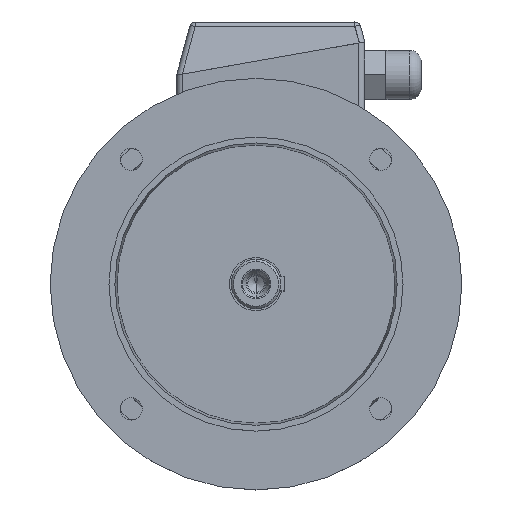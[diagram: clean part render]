
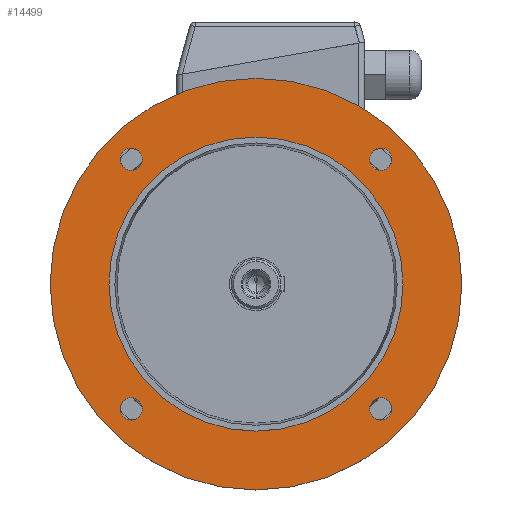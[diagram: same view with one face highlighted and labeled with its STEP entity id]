
A CAD part, top view. The second image highlights one B-rep face of the part: STEP entity #14499.
In plain terms, the highlighted planar face has unit normal (0, 0, 1).
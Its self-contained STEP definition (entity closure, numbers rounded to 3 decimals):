
#76 = CIRCLE ( 'NONE', #77, 125. ) ;
#77 = AXIS2_PLACEMENT_3D ( 'NONE', #78, #79, #80 ) ;
#78 = CARTESIAN_POINT ( 'NONE',  ( 0., 0., 75. ) ) ;
#79 = DIRECTION ( 'NONE',  ( 0., 0., 1. ) ) ;
#80 = DIRECTION ( 'NONE',  ( 1., 0., 0. ) ) ;
#146 = CARTESIAN_POINT ( 'NONE',  ( -96.566, -106.066, 75. ) ) ;
#566 = CIRCLE ( 'NONE', #567, 9.5 ) ;
#567 = AXIS2_PLACEMENT_3D ( 'NONE', #568, #569, #570 ) ;
#568 = CARTESIAN_POINT ( 'NONE',  ( -106.066, 106.066, 75. ) ) ;
#569 = DIRECTION ( 'NONE',  ( 0., 0., 1. ) ) ;
#570 = DIRECTION ( 'NONE',  ( 1., 0., 0. ) ) ;
#2856 = VERTEX_POINT ( 'NONE', #7090 ) ;
#2883 = CARTESIAN_POINT ( 'NONE',  ( -115.566, 106.066, 75. ) ) ;
#3005 = CARTESIAN_POINT ( 'NONE',  ( -115.566, -106.066, 75. ) ) ;
#3083 = CARTESIAN_POINT ( 'NONE',  ( 115.566, 106.066, 75. ) ) ;
#3189 = CIRCLE ( 'NONE', #3190, 9.5 ) ;
#3190 = AXIS2_PLACEMENT_3D ( 'NONE', #3191, #3192, #3193 ) ;
#3191 = CARTESIAN_POINT ( 'NONE',  ( 106.066, 106.066, 75. ) ) ;
#3192 = DIRECTION ( 'NONE',  ( 0., 0., 1. ) ) ;
#3193 = DIRECTION ( 'NONE',  ( 1., 0., 0. ) ) ;
#3219 = CIRCLE ( 'NONE', #3220, 9.5 ) ;
#3220 = AXIS2_PLACEMENT_3D ( 'NONE', #3221, #3222, #3223 ) ;
#3221 = CARTESIAN_POINT ( 'NONE',  ( -106.066, 106.066, 75. ) ) ;
#3222 = DIRECTION ( 'NONE',  ( 0., 0., 1. ) ) ;
#3223 = DIRECTION ( 'NONE',  ( 1., 0., 0. ) ) ;
#3340 = VERTEX_POINT ( 'NONE', #7311 ) ;
#3695 = CARTESIAN_POINT ( 'NONE',  ( 96.566, 106.066, 75. ) ) ;
#4199 = EDGE_CURVE ( 'NONE', #2856, #8234, #7816, .T. ) ;
#4495 = EDGE_CURVE ( 'NONE', #3340, #5334, #8721, .T. ) ;
#4925 = EDGE_CURVE ( 'NONE', #14498, #5102, #9749, .T. ) ;
#5102 = VERTEX_POINT ( 'NONE', #11057 ) ;
#5293 = EDGE_LOOP ( 'NONE', ( #7123, #10519 ) ) ;
#5334 = VERTEX_POINT ( 'NONE', #12195 ) ;
#5354 = ORIENTED_EDGE ( 'NONE', *, *, #11137, .F. ) ;
#5626 = ORIENTED_EDGE ( 'NONE', *, *, #14335, .T. ) ;
#5703 = ORIENTED_EDGE ( 'NONE', *, *, #4925, .T. ) ;
#6196 = EDGE_LOOP ( 'NONE', ( #5703, #5626 ) ) ;
#6723 = EDGE_CURVE ( 'NONE', #8234, #2856, #14326, .T. ) ;
#7090 = CARTESIAN_POINT ( 'NONE',  ( 96.566, -106.066, 75. ) ) ;
#7123 = ORIENTED_EDGE ( 'NONE', *, *, #6723, .F. ) ;
#7311 = CARTESIAN_POINT ( 'NONE',  ( 125., 0., 75. ) ) ;
#7816 = CIRCLE ( 'NONE', #7817, 9.5 ) ;
#7817 = AXIS2_PLACEMENT_3D ( 'NONE', #7818, #7819, #7820 ) ;
#7818 = CARTESIAN_POINT ( 'NONE',  ( 106.066, -106.066, 75. ) ) ;
#7819 = DIRECTION ( 'NONE',  ( 0., 0., 1. ) ) ;
#7820 = DIRECTION ( 'NONE',  ( 1., 0., 0. ) ) ;
#8234 = VERTEX_POINT ( 'NONE', #15065 ) ;
#8499 = EDGE_CURVE ( 'NONE', #5334, #3340, #76, .T. ) ;
#8640 = VERTEX_POINT ( 'NONE', #146 ) ;
#8721 = CIRCLE ( 'NONE', #8722, 125. ) ;
#8722 = AXIS2_PLACEMENT_3D ( 'NONE', #8730, #8731, #8732 ) ;
#8730 = CARTESIAN_POINT ( 'NONE',  ( 0., 0., 75. ) ) ;
#8731 = DIRECTION ( 'NONE',  ( 0., 0., 1. ) ) ;
#8732 = DIRECTION ( 'NONE',  ( 1., 0., 0. ) ) ;
#8908 = ORIENTED_EDGE ( 'NONE', *, *, #8499, .F. ) ;
#9655 = EDGE_CURVE ( 'NONE', #10421, #14413, #566, .T. ) ;
#9683 = ORIENTED_EDGE ( 'NONE', *, *, #4495, .F. ) ;
#9749 = CIRCLE ( 'NONE', #9750, 175. ) ;
#9750 = AXIS2_PLACEMENT_3D ( 'NONE', #9751, #9752, #9753 ) ;
#9751 = CARTESIAN_POINT ( 'NONE',  ( 0., 0., 75. ) ) ;
#9752 = DIRECTION ( 'NONE',  ( 0., 0., 1. ) ) ;
#9753 = DIRECTION ( 'NONE',  ( 1., 0., 0. ) ) ;
#10257 = EDGE_LOOP ( 'NONE', ( #9683, #8908 ) ) ;
#10421 = VERTEX_POINT ( 'NONE', #2883 ) ;
#10519 = ORIENTED_EDGE ( 'NONE', *, *, #4199, .F. ) ;
#10683 = CIRCLE ( 'NONE', #10684, 9.5 ) ;
#10684 = AXIS2_PLACEMENT_3D ( 'NONE', #10685, #10689, #10690 ) ;
#10685 = CARTESIAN_POINT ( 'NONE',  ( 106.066, 106.066, 75. ) ) ;
#10688 = ORIENTED_EDGE ( 'NONE', *, *, #9655, .F. ) ;
#10689 = DIRECTION ( 'NONE',  ( 0., 0., 1. ) ) ;
#10690 = DIRECTION ( 'NONE',  ( 1., 0., 0. ) ) ;
#10708 = VERTEX_POINT ( 'NONE', #3005 ) ;
#10897 = VERTEX_POINT ( 'NONE', #3083 ) ;
#10976 = CIRCLE ( 'NONE', #10977, 9.5 ) ;
#10977 = AXIS2_PLACEMENT_3D ( 'NONE', #10978, #10979, #10980 ) ;
#10978 = CARTESIAN_POINT ( 'NONE',  ( -106.066, -106.066, 75. ) ) ;
#10979 = DIRECTION ( 'NONE',  ( 0., 0., 1. ) ) ;
#10980 = DIRECTION ( 'NONE',  ( 1., 0., 0. ) ) ;
#11057 = CARTESIAN_POINT ( 'NONE',  ( -175., 0., 75. ) ) ;
#11137 = EDGE_CURVE ( 'NONE', #12305, #10897, #3189, .T. ) ;
#11260 = EDGE_CURVE ( 'NONE', #14413, #10421, #3219, .T. ) ;
#11610 = CIRCLE ( 'NONE', #11611, 9.5 ) ;
#11611 = AXIS2_PLACEMENT_3D ( 'NONE', #11612, #11613, #11614 ) ;
#11612 = CARTESIAN_POINT ( 'NONE',  ( -106.066, -106.066, 75. ) ) ;
#11613 = DIRECTION ( 'NONE',  ( 0., 0., 1. ) ) ;
#11614 = DIRECTION ( 'NONE',  ( 1., 0., 0. ) ) ;
#11669 = ORIENTED_EDGE ( 'NONE', *, *, #11260, .F. ) ;
#12195 = CARTESIAN_POINT ( 'NONE',  ( -125., 0., 75. ) ) ;
#12244 = EDGE_LOOP ( 'NONE', ( #11669, #10688 ) ) ;
#12269 = CIRCLE ( 'NONE', #12270, 175. ) ;
#12270 = AXIS2_PLACEMENT_3D ( 'NONE', #12271, #12272, #12273 ) ;
#12271 = CARTESIAN_POINT ( 'NONE',  ( 0., 0., 75. ) ) ;
#12272 = DIRECTION ( 'NONE',  ( 0., 0., 1. ) ) ;
#12273 = DIRECTION ( 'NONE',  ( 1., 0., 0. ) ) ;
#12305 = VERTEX_POINT ( 'NONE', #3695 ) ;
#12342 = CARTESIAN_POINT ( 'NONE',  ( -96.566, 106.066, 75. ) ) ;
#12410 = CARTESIAN_POINT ( 'NONE',  ( 175., 0., 75. ) ) ;
#12411 = FACE_BOUND ( 'NONE', #14232, .T. ) ;
#12412 = FACE_BOUND ( 'NONE', #5293, .T. ) ;
#12413 = FACE_BOUND ( 'NONE', #10257, .T. ) ;
#12414 = FACE_OUTER_BOUND ( 'NONE', #6196, .T. ) ;
#12415 = FACE_BOUND ( 'NONE', #14067, .T. ) ;
#12416 = FACE_BOUND ( 'NONE', #12244, .T. ) ;
#12417 = PLANE ( 'NONE',  #12422 ) ;
#12422 = AXIS2_PLACEMENT_3D ( 'NONE', #12423, #12424, #12425 ) ;
#12423 = CARTESIAN_POINT ( 'NONE',  ( 0., 175., 75. ) ) ;
#12424 = DIRECTION ( 'NONE',  ( 0., 0., -1. ) ) ;
#12425 = DIRECTION ( 'NONE',  ( -1., 0., 0. ) ) ;
#12502 = ORIENTED_EDGE ( 'NONE', *, *, #13733, .F. ) ;
#12833 = EDGE_CURVE ( 'NONE', #10897, #12305, #10683, .T. ) ;
#13081 = EDGE_CURVE ( 'NONE', #8640, #10708, #10976, .T. ) ;
#13238 = ORIENTED_EDGE ( 'NONE', *, *, #12833, .F. ) ;
#13489 = ORIENTED_EDGE ( 'NONE', *, *, #13081, .F. ) ;
#13733 = EDGE_CURVE ( 'NONE', #10708, #8640, #11610, .T. ) ;
#14067 = EDGE_LOOP ( 'NONE', ( #13489, #12502 ) ) ;
#14232 = EDGE_LOOP ( 'NONE', ( #13238, #5354 ) ) ;
#14326 = CIRCLE ( 'NONE', #14327, 9.5 ) ;
#14327 = AXIS2_PLACEMENT_3D ( 'NONE', #14328, #14329, #14330 ) ;
#14328 = CARTESIAN_POINT ( 'NONE',  ( 106.066, -106.066, 75. ) ) ;
#14329 = DIRECTION ( 'NONE',  ( 0., 0., 1. ) ) ;
#14330 = DIRECTION ( 'NONE',  ( 1., 0., 0. ) ) ;
#14335 = EDGE_CURVE ( 'NONE', #5102, #14498, #12269, .T. ) ;
#14413 = VERTEX_POINT ( 'NONE', #12342 ) ;
#14498 = VERTEX_POINT ( 'NONE', #12410 ) ;
#14499 = ADVANCED_FACE ( 'NONE', ( #12411, #12412, #12413, #12414, #12415, #12416 ), #12417, .F. ) ;
#15065 = CARTESIAN_POINT ( 'NONE',  ( 115.566, -106.066, 75. ) ) ;
